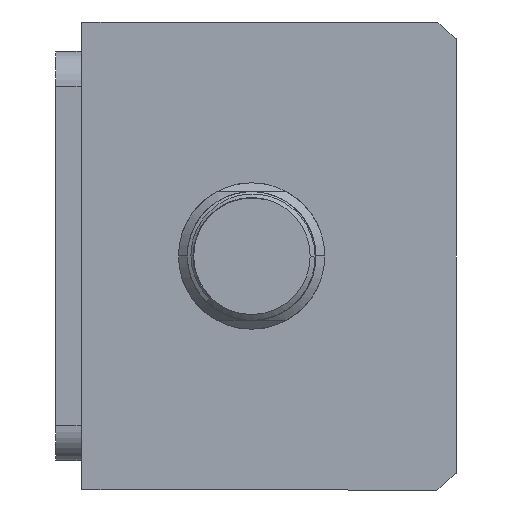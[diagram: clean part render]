
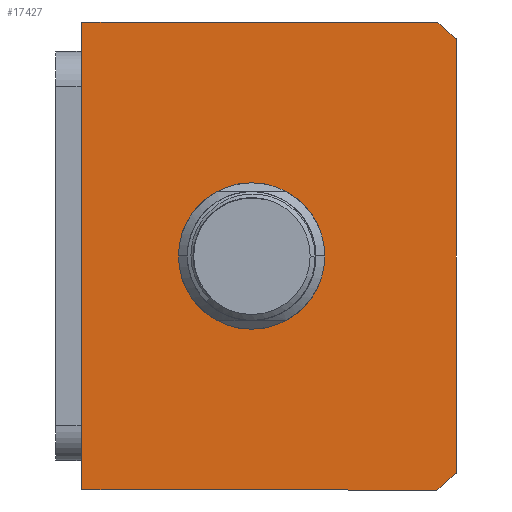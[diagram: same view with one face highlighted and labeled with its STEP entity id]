
A CAD part, front view. The second image highlights one B-rep face of the part: STEP entity #17427.
In plain terms, the highlighted planar face has unit normal (0, -1, 0) as drawn and (0, 0, -1) by its records, which use the part's own axes.
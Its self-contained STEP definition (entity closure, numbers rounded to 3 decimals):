
#195 = ORIENTED_EDGE ( 'NONE', *, *, #15790, .F. ) ;
#334 = VECTOR ( 'NONE', #10670, 1000. ) ;
#654 = CARTESIAN_POINT ( 'NONE',  ( 40., -72.145, 0. ) ) ;
#799 = CIRCLE ( 'NONE', #12091, 12.5 ) ;
#1193 = CARTESIAN_POINT ( 'NONE',  ( -40., -75.507, 0. ) ) ;
#1511 = VERTEX_POINT ( 'NONE', #3959 ) ;
#1659 = VECTOR ( 'NONE', #17392, 1000. ) ;
#1669 = LINE ( 'NONE', #15612, #2087 ) ;
#1762 = VERTEX_POINT ( 'NONE', #12878 ) ;
#2087 = VECTOR ( 'NONE', #7509, 1000. ) ;
#2273 = ORIENTED_EDGE ( 'NONE', *, *, #3804, .F. ) ;
#3013 = PLANE ( 'NONE',  #17430 ) ;
#3254 = CARTESIAN_POINT ( 'NONE',  ( 40., -11.507, 0. ) ) ;
#3804 = EDGE_CURVE ( 'NONE', #1511, #16925, #14583, .T. ) ;
#3959 = CARTESIAN_POINT ( 'NONE',  ( 37.094, -75.507, 0. ) ) ;
#4194 = ORIENTED_EDGE ( 'NONE', *, *, #10425, .F. ) ;
#4415 = ORIENTED_EDGE ( 'NONE', *, *, #7769, .F. ) ;
#4729 = ORIENTED_EDGE ( 'NONE', *, *, #12176, .T. ) ;
#4760 = AXIS2_PLACEMENT_3D ( 'NONE', #12968, #4887, #14348 ) ;
#4887 = DIRECTION ( 'NONE',  ( 0., 0., 1. ) ) ;
#4901 = DIRECTION ( 'NONE',  ( 0., 0., 1. ) ) ;
#4991 = FACE_OUTER_BOUND ( 'NONE', #7227, .T. ) ;
#5084 = VECTOR ( 'NONE', #8011, 1000. ) ;
#5301 = VERTEX_POINT ( 'NONE', #3254 ) ;
#5379 = VERTEX_POINT ( 'NONE', #12257 ) ;
#5432 = AXIS2_PLACEMENT_3D ( 'NONE', #12986, #4901, #14364 ) ;
#5753 = DIRECTION ( 'NONE',  ( 1., 0., 0. ) ) ;
#6640 = CARTESIAN_POINT ( 'NONE',  ( -40., -11.507, 0. ) ) ;
#6651 = AXIS2_PLACEMENT_3D ( 'NONE', #6885, #16345, #8266 ) ;
#6885 = CARTESIAN_POINT ( 'NONE',  ( 0., -40.507, 0. ) ) ;
#7195 = EDGE_CURVE ( 'NONE', #5301, #13654, #8687, .T. ) ;
#7227 = EDGE_LOOP ( 'NONE', ( #14258, #4415, #13937, #195, #2273, #4194 ) ) ;
#7322 = DIRECTION ( 'NONE',  ( 0., 0., 1. ) ) ;
#7509 = DIRECTION ( 'NONE',  ( 0., -1., 0. ) ) ;
#7576 = CARTESIAN_POINT ( 'NONE',  ( 12.5, -40.507, 0. ) ) ;
#7769 = EDGE_CURVE ( 'NONE', #13654, #17534, #1669, .T. ) ;
#8011 = DIRECTION ( 'NONE',  ( -1., 0., 0. ) ) ;
#8266 = DIRECTION ( 'NONE',  ( 1., 0., 0. ) ) ;
#8687 = LINE ( 'NONE', #6640, #5084 ) ;
#10425 = EDGE_CURVE ( 'NONE', #5379, #1511, #17506, .T. ) ;
#10670 = DIRECTION ( 'NONE',  ( 1., 0., 0. ) ) ;
#11488 = EDGE_CURVE ( 'NONE', #17534, #5379, #13025, .T. ) ;
#12091 = AXIS2_PLACEMENT_3D ( 'NONE', #15429, #7322, #16778 ) ;
#12176 = EDGE_CURVE ( 'NONE', #13823, #1762, #16845, .T. ) ;
#12257 = CARTESIAN_POINT ( 'NONE',  ( -37.094, -75.507, 0. ) ) ;
#12476 = CARTESIAN_POINT ( 'NONE',  ( 0., 0., 0. ) ) ;
#12878 = CARTESIAN_POINT ( 'NONE',  ( -12.5, -40.507, 0. ) ) ;
#12968 = CARTESIAN_POINT ( 'NONE',  ( 0., -40.507, 0. ) ) ;
#12986 = CARTESIAN_POINT ( 'NONE',  ( 0., -40.507, 0. ) ) ;
#13025 = CIRCLE ( 'NONE', #5432, 51. ) ;
#13654 = VERTEX_POINT ( 'NONE', #15391 ) ;
#13750 = LINE ( 'NONE', #16030, #1659 ) ;
#13823 = VERTEX_POINT ( 'NONE', #7576 ) ;
#13849 = DIRECTION ( 'NONE',  ( 0., 0., 1. ) ) ;
#13937 = ORIENTED_EDGE ( 'NONE', *, *, #7195, .F. ) ;
#14024 = CARTESIAN_POINT ( 'NONE',  ( -40., -72.145, 0. ) ) ;
#14258 = ORIENTED_EDGE ( 'NONE', *, *, #11488, .F. ) ;
#14348 = DIRECTION ( 'NONE',  ( 1., 0., 0. ) ) ;
#14364 = DIRECTION ( 'NONE',  ( 1., 0., 0. ) ) ;
#14583 = CIRCLE ( 'NONE', #6651, 51. ) ;
#15391 = CARTESIAN_POINT ( 'NONE',  ( -40., -11.507, 0. ) ) ;
#15429 = CARTESIAN_POINT ( 'NONE',  ( 0., -40.507, 0. ) ) ;
#15612 = CARTESIAN_POINT ( 'NONE',  ( -40., -11.507, 0. ) ) ;
#15790 = EDGE_CURVE ( 'NONE', #16925, #5301, #13750, .T. ) ;
#15941 = EDGE_LOOP ( 'NONE', ( #4729, #16150 ) ) ;
#16030 = CARTESIAN_POINT ( 'NONE',  ( 40., -11.507, 0. ) ) ;
#16036 = EDGE_CURVE ( 'NONE', #1762, #13823, #799, .T. ) ;
#16150 = ORIENTED_EDGE ( 'NONE', *, *, #16036, .T. ) ;
#16213 = FACE_BOUND ( 'NONE', #15941, .T. ) ;
#16345 = DIRECTION ( 'NONE',  ( 0., 0., 1. ) ) ;
#16778 = DIRECTION ( 'NONE',  ( 1., 0., 0. ) ) ;
#16845 = CIRCLE ( 'NONE', #4760, 12.5 ) ;
#16925 = VERTEX_POINT ( 'NONE', #654 ) ;
#17392 = DIRECTION ( 'NONE',  ( 0., 1., 0. ) ) ;
#17427 = ADVANCED_FACE ( 'NONE', ( #16213, #4991 ), #3013, .F. ) ;
#17430 = AXIS2_PLACEMENT_3D ( 'NONE', #12476, #13849, #5753 ) ;
#17506 = LINE ( 'NONE', #1193, #334 ) ;
#17534 = VERTEX_POINT ( 'NONE', #14024 ) ;
